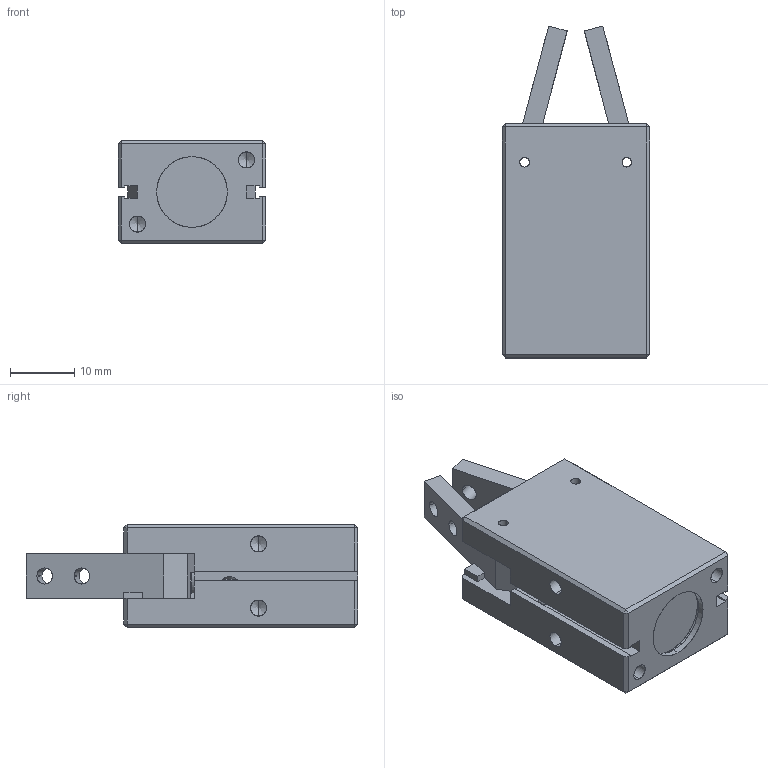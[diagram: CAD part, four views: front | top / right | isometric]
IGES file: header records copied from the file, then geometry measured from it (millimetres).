
Start section: SolidWorks IGES file using analytic representation for surfaces
Global section: file name: C:\Documents and Settings\SGA\Bureau\GDS.10\GDS.10-CLOSE.IGS; native system: SolidWorks 2010; preprocessor: SolidWorks 2010; author: SGA; date: 111020.134357; units: millimetre
Bounding box: 23 x 51.75 x 16 mm (x, y, z)
Surface area: 7144.9 mm2 (no closed solid volume)
Topology: 0 solids, 0 shells, 574 faces, 5946 edges, 5934 vertices
Faces by surface type: bspline 513, revolution 61
